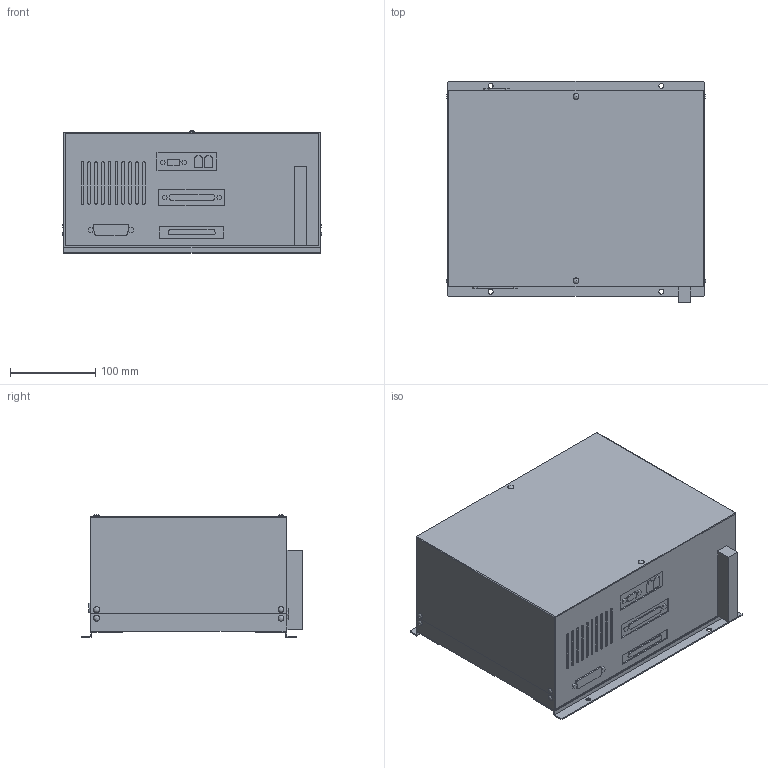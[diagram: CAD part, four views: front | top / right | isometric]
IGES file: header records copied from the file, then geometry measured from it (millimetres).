
Global section: file name: C4451-07316; native system: Autodesk Inventor 2016; preprocessor: unknown; author: h-mitaka; date: 20161107.112436; units: millimetre
Bounding box: 303.78 x 259.5 x 143.9 mm (x, y, z)
Volume: 9344208 mm3; surface area: 315508.1 mm2
Topology: 1 solids, 1 shells, 334 faces, 853 edges, 574 vertices
Faces by surface type: bspline 334
